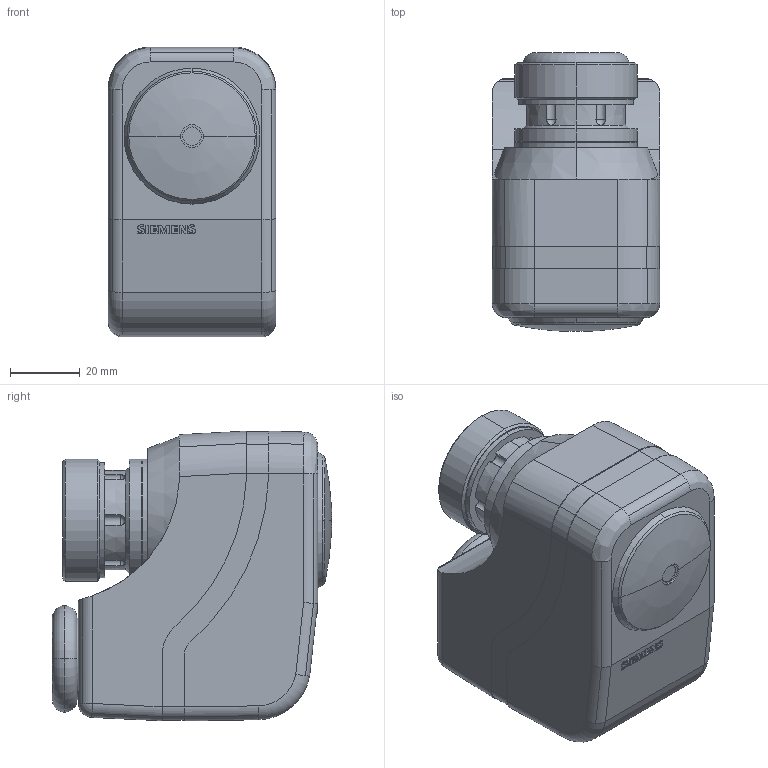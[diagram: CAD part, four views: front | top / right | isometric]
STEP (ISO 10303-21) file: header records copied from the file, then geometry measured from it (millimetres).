
FILE_DESCRIPTION((''),'2;1');
FILE_NAME('SSA31_61_81.dwg.stp','2006-10-04T11:32:46',(''),(''),'Mechanical Desktop 2006','Mechanical Desktop 2006',', , ');
FILE_SCHEMA(('AUTOMOTIVE_DESIGN { 1 2 10303 214 0 1 1 1 }'));
Length unit declared in the file: millimetre
Products named in the file (1): Product
Bounding box: 48 x 79.95 x 83 mm (x, y, z)
Volume: 237225.2 mm3; surface area: 54358.9 mm2
Topology: 17 solids, 17 shells, 330 faces, 854 edges, 553 vertices
Faces by surface type: cylinder 171, plane 119, cone 20, torus 8, sphere 8, bspline 4
Entity records: 10716 total; most frequent: CARTESIAN_POINT 2370, DIRECTION 1835, ORIENTED_EDGE 1692, EDGE_CURVE 846, AXIS2_PLACEMENT_3D 708, VERTEX_POINT 553, VECTOR 419, LINE 419
